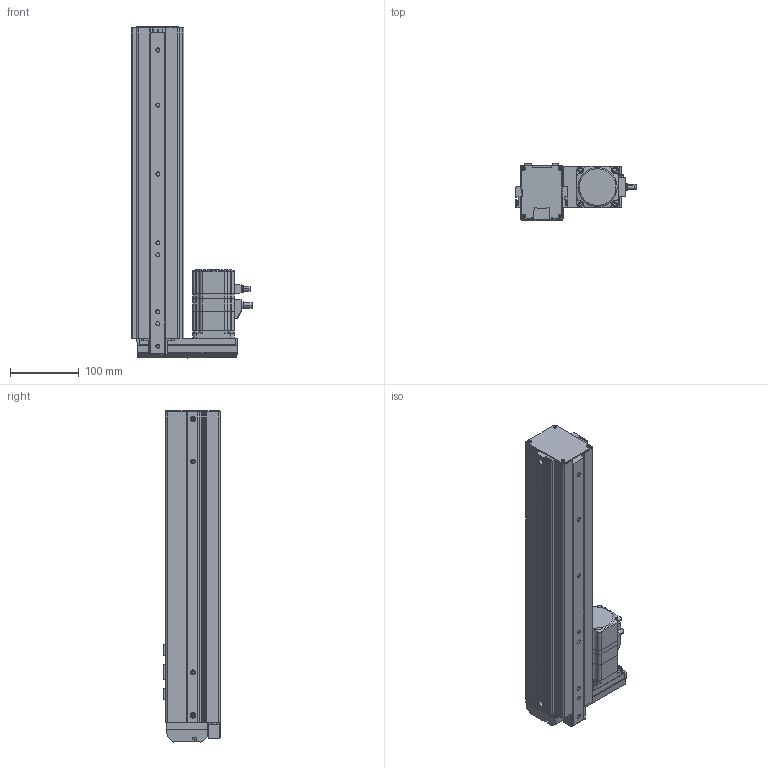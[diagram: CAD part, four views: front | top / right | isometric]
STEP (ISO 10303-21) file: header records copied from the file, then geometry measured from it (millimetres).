
FILE_DESCRIPTION (( 'STEP AP203' ), '1' );
FILE_NAME ('EASM6LYD030ARMC.step', '2013-10-11T04:49:10', ( 'om' ), ( 'Hewlett-Packard Company' ), 'SwSTEP 2.0', 'SolidWorks 2011', '' );
FILE_SCHEMA (( 'CONFIG_CONTROL_DESIGN' ));
Length unit declared in the file: millimetre
Products named in the file (4): EASM6LYD030ARMC; EASM6LYD030ARMC_Table; EASM6LYD030ARMC_BASE; EASM6LYD030ARMC_Motor
Assembly tree (3 placements, depth 2):
  EASM6LYD030ARMC
    EASM6LYD030ARMC_BASE
    EASM6LYD030ARMC_Motor
    EASM6LYD030ARMC_Table
Bounding box: 174.7 x 83 x 482.13 mm (x, y, z)
Volume: 1582622.1 mm3; surface area: 415862.8 mm2
Topology: 3 solids, 15 shells, 1246 faces, 3316 edges, 2166 vertices
Faces by surface type: plane 748, cylinder 434, cone 34, torus 24, bspline 6
Entity records: 39642 total; most frequent: CARTESIAN_POINT 7412, DIRECTION 6654, ORIENTED_EDGE 6612, EDGE_CURVE 3306, VECTOR 2278, LINE 2278, AXIS2_PLACEMENT_3D 2188, VERTEX_POINT 2166
